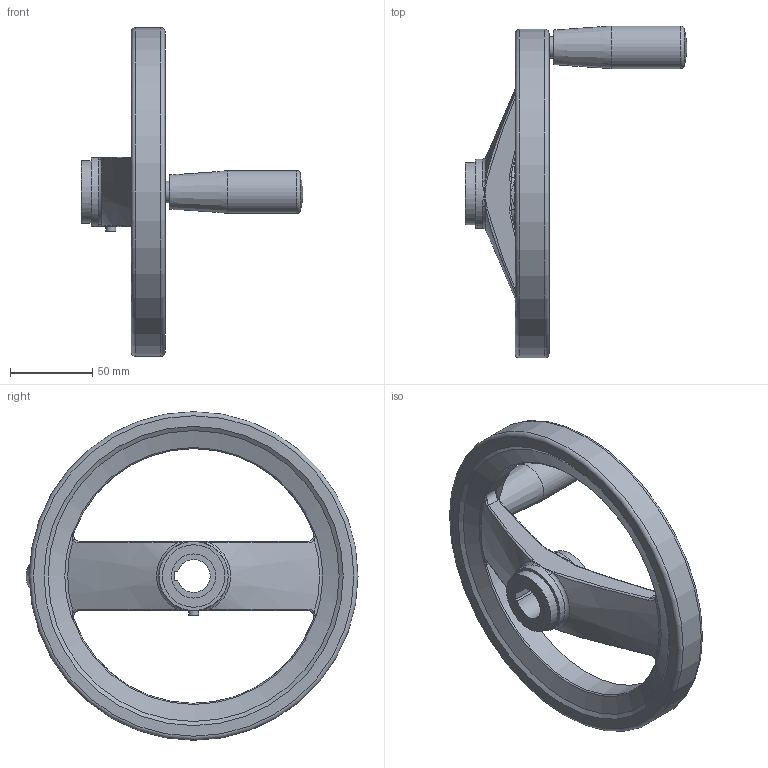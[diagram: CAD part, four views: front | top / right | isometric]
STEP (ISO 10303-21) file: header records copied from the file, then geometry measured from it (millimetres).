
FILE_DESCRIPTION (( 'STEP AP214' ), '1' );
FILE_NAME ('322.4-200-K20-D-DR.step', '2022-04-05T10:14:42', ( '' ), ( '' ), 'SwSTEP 2.0', 'SolidWorks 2019', '' );
FILE_SCHEMA (( 'AUTOMOTIVE_DESIGN' ));
Length unit declared in the file: millimetre
Products named in the file (1): 322.4-200-K20-D-DR
Bounding box: 134.82 x 202 x 200 mm (x, y, z)
Volume: 373038.5 mm3; surface area: 71863 mm2
Topology: 1 solids, 1 shells, 114 faces, 272 edges, 152 vertices
Faces by surface type: bspline 56, cylinder 19, plane 18, torus 12, cone 8, sphere 1
Full cylindrical faces by diameter (mm): 6 x1, 13 x1, 26 x1, 26.8 x2, 26.82 x2, 38 x2, 42 x1, 155 x1, 200 x1
Entity records: 5915 total; most frequent: CARTESIAN_POINT 2853, ORIENTED_EDGE 462, DIRECTION 346, EDGE_CURVE 231, AXIS2_PLACEMENT_3D 164, EDGE_LOOP 148, VERTEX_POINT 147, FACE_OUTER_BOUND 130
